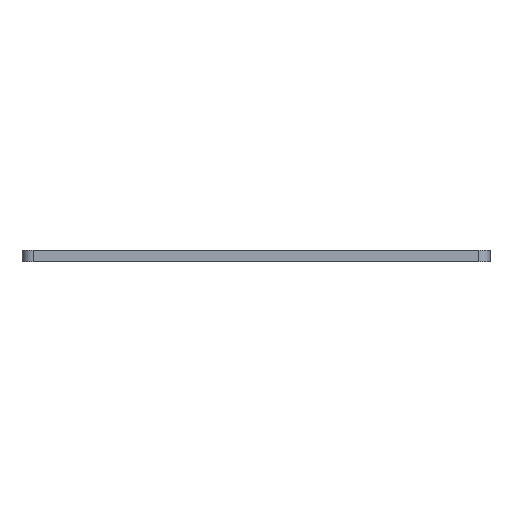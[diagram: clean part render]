
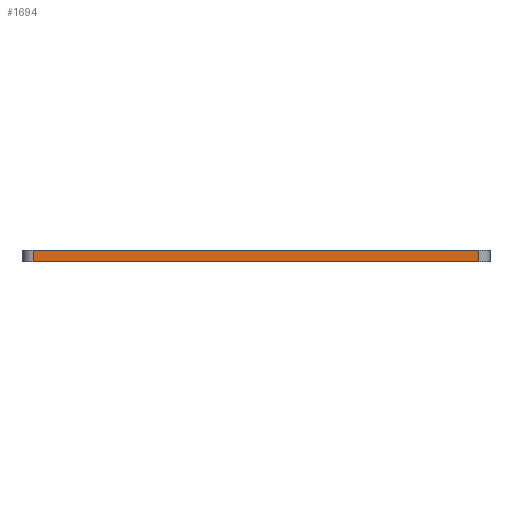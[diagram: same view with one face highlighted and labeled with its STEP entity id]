
A CAD part, left-side view. The second image highlights one B-rep face of the part: STEP entity #1694.
In plain terms, the highlighted planar face has unit normal (-1, 0, 0).
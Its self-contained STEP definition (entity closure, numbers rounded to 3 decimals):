
#148=CARTESIAN_POINT('Vertex',(-40.,302.5,-90.)) ;
#151=CARTESIAN_POINT('Line Origine',(-40.,105.,-90.)) ;
#155=CARTESIAN_POINT('Vertex',(-40.,-92.5,-90.)) ;
#591=CARTESIAN_POINT('Vertex',(-40.,-92.5,-100.)) ;
#594=CARTESIAN_POINT('Line Origine',(-40.,105.,-100.)) ;
#598=CARTESIAN_POINT('Vertex',(-40.,302.5,-100.)) ;
#1666=CARTESIAN_POINT('Line Origine',(-40.,302.5,-95.)) ;
#1678=CARTESIAN_POINT('Axis2P3D Location',(-40.,-102.5,-90.)) ;
#1683=CARTESIAN_POINT('Line Origine',(-40.,-92.5,-95.)) ;
#152=DIRECTION('Vector Direction',(0.,1.,0.)) ;
#595=DIRECTION('Vector Direction',(0.,1.,0.)) ;
#1667=DIRECTION('Vector Direction',(0.,0.,-1.)) ;
#1679=DIRECTION('Axis2P3D Direction',(-1.,0.,0.)) ;
#1680=DIRECTION('Axis2P3D XDirection',(0.,1.,0.)) ;
#1684=DIRECTION('Vector Direction',(0.,0.,-1.)) ;
#1681=AXIS2_PLACEMENT_3D('Plane Axis2P3D',#1678,#1679,#1680) ;
#1689=ORIENTED_EDGE('',*,*,#157,.T.) ;
#1690=ORIENTED_EDGE('',*,*,#1670,.T.) ;
#1691=ORIENTED_EDGE('',*,*,#600,.F.) ;
#1692=ORIENTED_EDGE('',*,*,#1687,.F.) ;
#153=VECTOR('Line Direction',#152,1.) ;
#596=VECTOR('Line Direction',#595,1.) ;
#1668=VECTOR('Line Direction',#1667,1.) ;
#1685=VECTOR('Line Direction',#1684,1.) ;
#1694=ADVANCED_FACE('PartBody',(#1693),#1682,.T.) ;
#157=EDGE_CURVE('',#156,#149,#154,.T.) ;
#600=EDGE_CURVE('',#592,#599,#597,.T.) ;
#1670=EDGE_CURVE('',#149,#599,#1669,.T.) ;
#1687=EDGE_CURVE('',#156,#592,#1686,.T.) ;
#1688=EDGE_LOOP('',(#1689,#1690,#1691,#1692)) ;
#1693=FACE_OUTER_BOUND('',#1688,.T.) ;
#154=LINE('Line',#151,#153) ;
#597=LINE('Line',#594,#596) ;
#1669=LINE('Line',#1666,#1668) ;
#1686=LINE('Line',#1683,#1685) ;
#1682=PLANE('Plane',#1681) ;
#149=VERTEX_POINT('',#148) ;
#156=VERTEX_POINT('',#155) ;
#592=VERTEX_POINT('',#591) ;
#599=VERTEX_POINT('',#598) ;
